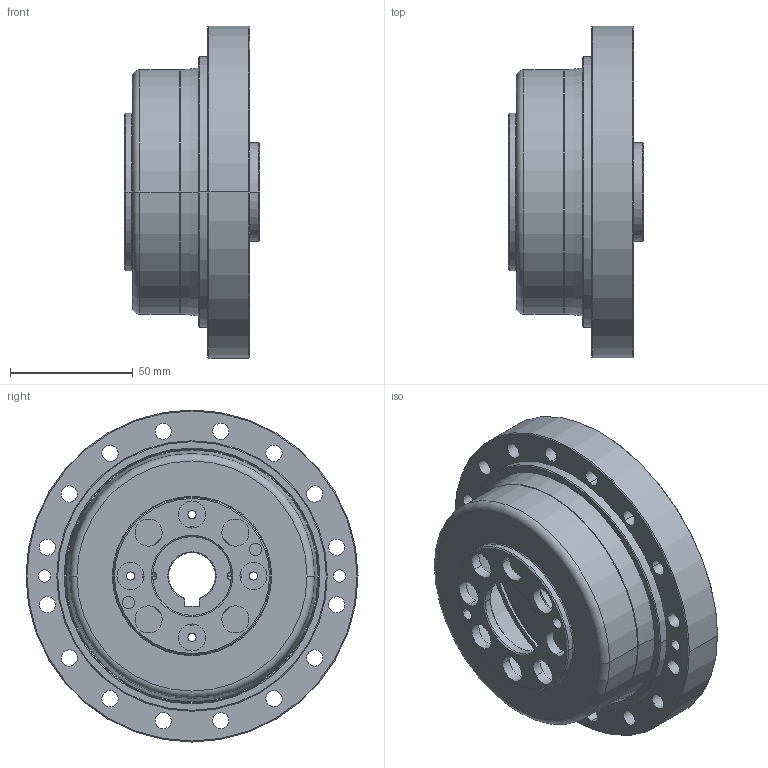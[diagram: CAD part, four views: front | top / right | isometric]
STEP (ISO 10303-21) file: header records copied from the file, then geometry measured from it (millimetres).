
FILE_DESCRIPTION (( 'STEP AP203' ), '1' );
FILE_NAME ('FCG-40-XXX-CJ.STEP', '2023-01-18T01:26:56', ( '微软用户' ), ( '微软中国' ), 'SwSTEP 2.0', 'SolidWorks 2016', '' );
FILE_SCHEMA (( 'CONFIG_CONTROL_DESIGN' ));
Length unit declared in the file: millimetre
Products named in the file (1): FCG-40-XXX-CJ
Bounding box: 55 x 135 x 135 mm (x, y, z)
Volume: 224909 mm3; surface area: 125261.3 mm2
Topology: 29 solids, 29 shells, 364 faces, 974 edges, 629 vertices
Faces by surface type: cylinder 174, plane 70, cone 46, sphere 46, torus 28
Entity records: 10914 total; most frequent: DIRECTION 2159, CARTESIAN_POINT 1792, ORIENTED_EDGE 1710, AXIS2_PLACEMENT_3D 943, EDGE_CURVE 855, CIRCLE 578, VERTEX_POINT 560, EDGE_LOOP 451
